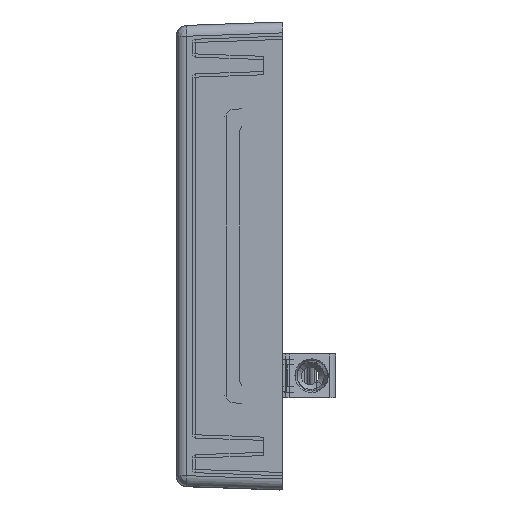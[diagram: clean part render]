
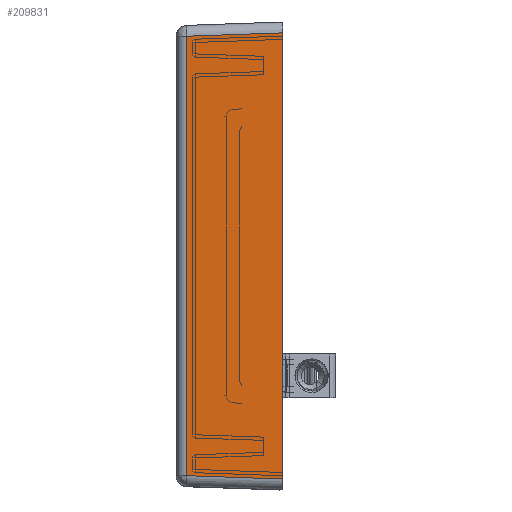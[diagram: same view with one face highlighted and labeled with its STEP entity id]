
A CAD part, left-side view. The second image highlights one B-rep face of the part: STEP entity #209831.
In plain terms, the highlighted planar face has unit normal (-0.999, 0.035, 0) as drawn and (-0.999, 0, 0.035) by its records, which use the part's own axes.
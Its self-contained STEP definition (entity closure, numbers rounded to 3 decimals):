
#12132 = AXIS2_PLACEMENT_3D ( 'NONE', #79694, #213154, #98869 ) ;
#22967 = VECTOR ( 'NONE', #97330, 1000. ) ;
#27493 = FACE_OUTER_BOUND ( 'NONE', #195897, .T. ) ;
#61044 = CARTESIAN_POINT ( 'NONE',  ( -128.534, -30.633, 21.661 ) ) ;
#62683 = DIRECTION ( 'NONE',  ( 0., 1., 0. ) ) ;
#66511 = VERTEX_POINT ( 'NONE', #136645 ) ;
#68462 = CARTESIAN_POINT ( 'NONE',  ( -128.225, -35.277, 30.496 ) ) ;
#73721 = LINE ( 'NONE', #229973, #22967 ) ;
#79694 = CARTESIAN_POINT ( 'NONE',  ( -128.533, -35.277, 21.671 ) ) ;
#97330 = DIRECTION ( 'NONE',  ( -0.035, -0.035, -0.999 ) ) ;
#98042 = PLANE ( 'NONE',  #12132 ) ;
#98869 = DIRECTION ( 'NONE',  ( -0.035, 0., -0.999 ) ) ;
#109306 = LINE ( 'NONE', #68462, #204690 ) ;
#119592 = VERTEX_POINT ( 'NONE', #243429 ) ;
#136645 = CARTESIAN_POINT ( 'NONE',  ( -128.225, -30.942, 30.496 ) ) ;
#142731 = DIRECTION ( 'NONE',  ( 0., -1., 0. ) ) ;
#144057 = VERTEX_POINT ( 'NONE', #61044 ) ;
#161145 = ORIENTED_EDGE ( 'NONE', *, *, #194085, .F. ) ;
#161348 = CARTESIAN_POINT ( 'NONE',  ( -128.225, -71.327, 30.496 ) ) ;
#176806 = CARTESIAN_POINT ( 'NONE',  ( -128.534, -35.277, 21.661 ) ) ;
#179043 = EDGE_CURVE ( 'NONE', #119592, #144057, #239620, .T. ) ;
#182618 = VERTEX_POINT ( 'NONE', #161348 ) ;
#185028 = DIRECTION ( 'NONE',  ( 0.035, -0.035, 0.999 ) ) ;
#188930 = VECTOR ( 'NONE', #62683, 1000. ) ;
#192581 = EDGE_CURVE ( 'NONE', #144057, #66511, #247154, .T. ) ;
#194085 = EDGE_CURVE ( 'NONE', #182618, #119592, #73721, .T. ) ;
#195897 = EDGE_LOOP ( 'NONE', ( #219907, #208242, #237763, #161145 ) ) ;
#196456 = VECTOR ( 'NONE', #185028, 1000. ) ;
#198801 = EDGE_CURVE ( 'NONE', #66511, #182618, #109306, .T. ) ;
#204690 = VECTOR ( 'NONE', #142731, 1000. ) ;
#208242 = ORIENTED_EDGE ( 'NONE', *, *, #192581, .F. ) ;
#209831 = ADVANCED_FACE ( 'NONE', ( #27493 ), #98042, .F. ) ;
#213154 = DIRECTION ( 'NONE',  ( 0.999, 0., -0.035 ) ) ;
#219907 = ORIENTED_EDGE ( 'NONE', *, *, #198801, .F. ) ;
#222490 = CARTESIAN_POINT ( 'NONE',  ( -128.534, -30.633, 21.661 ) ) ;
#229973 = CARTESIAN_POINT ( 'NONE',  ( -128.225, -71.327, 30.496 ) ) ;
#237763 = ORIENTED_EDGE ( 'NONE', *, *, #179043, .F. ) ;
#239620 = LINE ( 'NONE', #176806, #188930 ) ;
#243429 = CARTESIAN_POINT ( 'NONE',  ( -128.534, -71.635, 21.661 ) ) ;
#247154 = LINE ( 'NONE', #222490, #196456 ) ;
